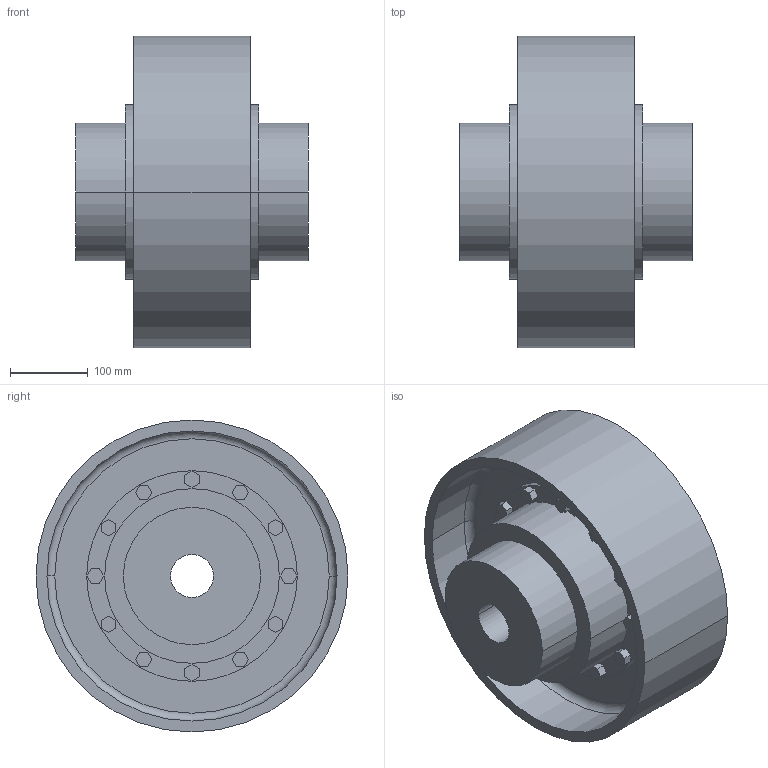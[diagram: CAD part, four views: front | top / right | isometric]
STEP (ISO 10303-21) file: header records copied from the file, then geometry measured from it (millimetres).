
FILE_DESCRIPTION((''),'2;1');
FILE_NAME('A19109600-0_ASM','2018-11-12T',('AB_Roschiwal'),('RENK AG'),'PRO/ENGINEER BY PARAMETRIC TECHNOLOGY CORPORATION, 2015440','PRO/ENGINEER BY PARAMETRIC TECHNOLOGY CORPORATION, 2015440','');
FILE_SCHEMA(('CONFIG_CONTROL_DESIGN'));
Length unit declared in the file: millimetre
Products named in the file (4): LBKD110_GEHAEUSE; LBKD110_NABE; LBKD110_BREMSSCHEIBE; A19109600-0_ASM
Assembly tree (4 placements, depth 2):
  A19109600-0_ASM
    LBKD110_GEHAEUSE
    LBKD110_NABE  x2
    LBKD110_BREMSSCHEIBE
Bounding box: 298 x 400 x 400 mm (x, y, z)
Volume: 12239765.6 mm3; surface area: 1224443.4 mm2
Topology: 4 solids, 4 shells, 292 faces, 704 edges, 468 vertices
Faces by surface type: plane 200, cylinder 88, torus 4
Entity records: 8356 total; most frequent: DIRECTION 1424, CARTESIAN_POINT 1420, ORIENTED_EDGE 1360, EDGE_CURVE 680, VECTOR 512, LINE 512, AXIS2_PLACEMENT_3D 456, VERTEX_POINT 452
